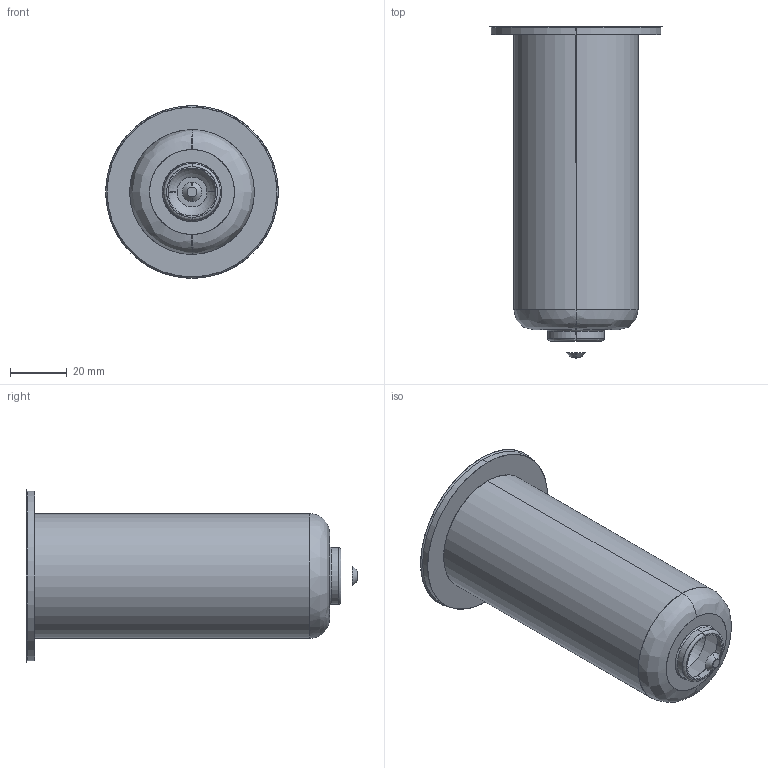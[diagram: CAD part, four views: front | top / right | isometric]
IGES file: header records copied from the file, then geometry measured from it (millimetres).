
Start section: SolidWorks IGES file using analytic representation for surfaces
Global section: file name: C:\Documents and Settings\ws-20\Desktop\TEM\Sede UGEP6005-M-A C-114 L-139 Ød-3.5.IGS; native system: SolidWorks 2012; preprocessor: SolidWorks 2012; author: ws-20; date: 120427.103326; units: millimetre
Bounding box: 61 x 117.29 x 61 mm (x, y, z)
Surface area: 20680.8 mm2 (no closed solid volume)
Topology: 0 solids, 0 shells, 25 faces, 468 edges, 468 vertices
Faces by surface type: revolution 16, bspline 9
